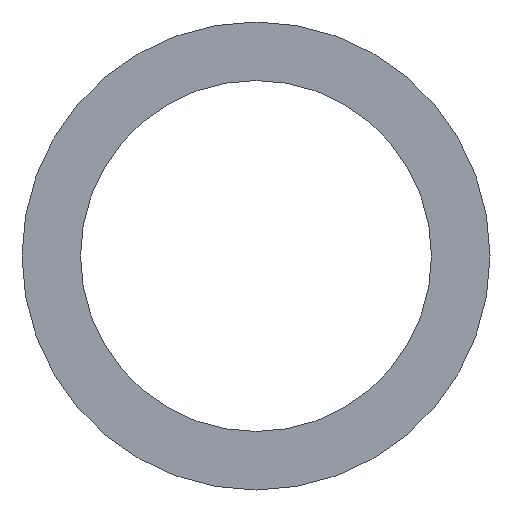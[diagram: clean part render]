
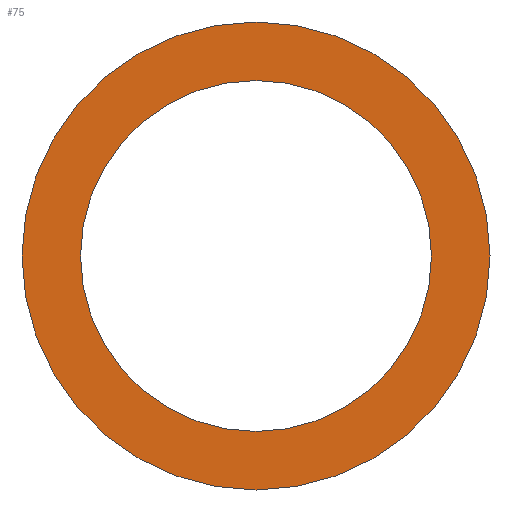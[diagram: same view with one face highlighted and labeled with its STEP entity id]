
A CAD part, front view. The second image highlights one B-rep face of the part: STEP entity #75.
In plain terms, the highlighted planar face has unit normal (0, -1, 0).
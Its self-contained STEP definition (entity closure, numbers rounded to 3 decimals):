
#19=FACE_BOUND('',#32,.T.);
#25=FACE_OUTER_BOUND('',#31,.T.);
#31=EDGE_LOOP('',(#61));
#32=EDGE_LOOP('',(#62));
#43=CIRCLE('',#84,60.);
#44=CIRCLE('',#85,45.);
#49=VERTEX_POINT('',#123);
#50=VERTEX_POINT('',#125);
#55=EDGE_CURVE('',#49,#49,#43,.T.);
#56=EDGE_CURVE('',#50,#50,#44,.T.);
#61=ORIENTED_EDGE('',*,*,#55,.F.);
#62=ORIENTED_EDGE('',*,*,#56,.T.);
#73=PLANE('',#83);
#75=ADVANCED_FACE('',(#25,#19),#73,.T.);
#83=AXIS2_PLACEMENT_3D('',#122,#97,#98);
#84=AXIS2_PLACEMENT_3D('',#124,#99,#100);
#85=AXIS2_PLACEMENT_3D('',#126,#101,#102);
#97=DIRECTION('center_axis',(0.,-1.,0.));
#98=DIRECTION('ref_axis',(0.,0.,-1.));
#99=DIRECTION('center_axis',(0.,1.,0.));
#100=DIRECTION('ref_axis',(1.,0.,0.));
#101=DIRECTION('center_axis',(0.,1.,0.));
#102=DIRECTION('ref_axis',(1.,0.,0.));
#122=CARTESIAN_POINT('Origin',(-60.,4.5,0.));
#123=CARTESIAN_POINT('',(-60.,4.5,0.));
#124=CARTESIAN_POINT('Origin',(0.,4.5,0.));
#125=CARTESIAN_POINT('',(-45.,4.5,0.));
#126=CARTESIAN_POINT('Origin',(0.,4.5,0.));
